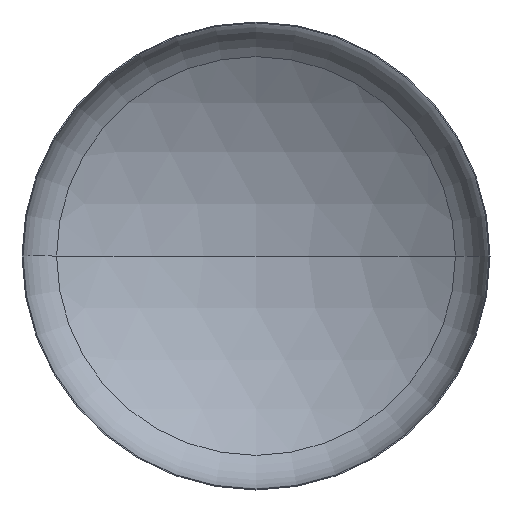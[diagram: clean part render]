
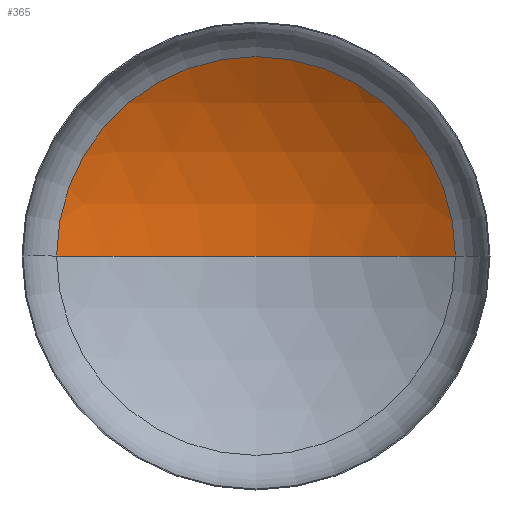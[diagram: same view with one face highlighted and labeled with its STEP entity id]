
A CAD part, front view. The second image highlights one B-rep face of the part: STEP entity #365.
In plain terms, the highlighted spherical face has radius 4000 mm.
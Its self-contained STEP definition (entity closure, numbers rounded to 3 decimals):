
#16 = ORIENTED_EDGE ( 'NONE', *, *, #162, .T. ) ;
#24 = CIRCLE ( 'NONE', #48, 2130.031 ) ;
#36 = AXIS2_PLACEMENT_3D ( 'NONE', #124, #120, #118 ) ;
#41 = AXIS2_PLACEMENT_3D ( 'NONE', #182, #326, #232 ) ;
#46 = EDGE_LOOP ( 'NONE', ( #56, #16, #190 ) ) ;
#48 = AXIS2_PLACEMENT_3D ( 'NONE', #214, #376, #236 ) ;
#56 = ORIENTED_EDGE ( 'NONE', *, *, #164, .F. ) ;
#83 = SPHERICAL_SURFACE ( 'NONE', #226, 4000. ) ;
#118 = DIRECTION ( 'NONE',  ( 1., 0., 0. ) ) ;
#120 = DIRECTION ( 'NONE',  ( 0., 0., 1. ) ) ;
#121 = VERTEX_POINT ( 'NONE', #252 ) ;
#124 = CARTESIAN_POINT ( 'NONE',  ( 0., -2703.953, 0. ) ) ;
#133 = VERTEX_POINT ( 'NONE', #208 ) ;
#154 = EDGE_CURVE ( 'NONE', #160, #121, #24, .T. ) ;
#158 = CARTESIAN_POINT ( 'NONE',  ( 0., -2703.953, 0. ) ) ;
#160 = VERTEX_POINT ( 'NONE', #200 ) ;
#162 = EDGE_CURVE ( 'NONE', #133, #160, #181, .T. ) ;
#164 = EDGE_CURVE ( 'NONE', #133, #121, #363, .T. ) ;
#181 = CIRCLE ( 'NONE', #41, 4000. ) ;
#182 = CARTESIAN_POINT ( 'NONE',  ( 0., -2703.953, 0. ) ) ;
#190 = ORIENTED_EDGE ( 'NONE', *, *, #154, .T. ) ;
#198 = DIRECTION ( 'NONE',  ( 0., 0., -1. ) ) ;
#200 = CARTESIAN_POINT ( 'NONE',  ( 2130.031, 681.747, 0. ) ) ;
#208 = CARTESIAN_POINT ( 'NONE',  ( 0., 1296.047, 0. ) ) ;
#214 = CARTESIAN_POINT ( 'NONE',  ( 0., 681.747, 0. ) ) ;
#226 = AXIS2_PLACEMENT_3D ( 'NONE', #158, #198, #361 ) ;
#232 = DIRECTION ( 'NONE',  ( -1., 0., 0. ) ) ;
#236 = DIRECTION ( 'NONE',  ( 1., 0., 0. ) ) ;
#252 = CARTESIAN_POINT ( 'NONE',  ( -2130.031, 681.747, 0. ) ) ;
#261 = FACE_OUTER_BOUND ( 'NONE', #46, .T. ) ;
#326 = DIRECTION ( 'NONE',  ( 0., 0., -1. ) ) ;
#361 = DIRECTION ( 'NONE',  ( -1., 0., 0. ) ) ;
#363 = CIRCLE ( 'NONE', #36, 4000. ) ;
#365 = ADVANCED_FACE ( 'NONE', ( #261 ), #83, .F. ) ;
#376 = DIRECTION ( 'NONE',  ( 0., -1., 0. ) ) ;
